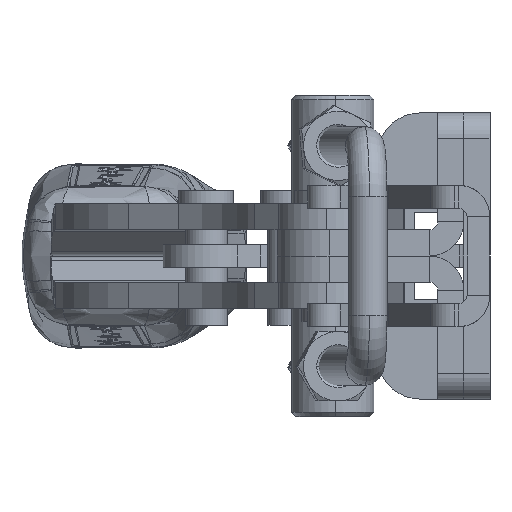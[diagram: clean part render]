
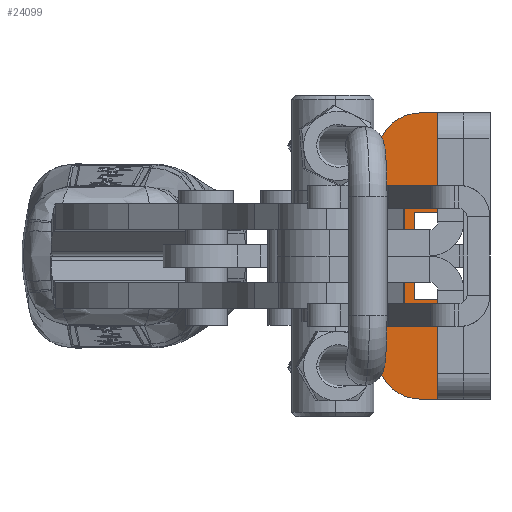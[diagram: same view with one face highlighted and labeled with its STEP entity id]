
A CAD part, left-side view. The second image highlights one B-rep face of the part: STEP entity #24099.
In plain terms, the highlighted planar face has unit normal (-1, 0, 0).
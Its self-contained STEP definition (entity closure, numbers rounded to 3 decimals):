
#34 = ORIENTED_EDGE ( 'NONE', *, *, #11541, .T. ) ;
#563 = CARTESIAN_POINT ( 'NONE',  ( 19.729, 1., 11.5 ) ) ;
#672 = LINE ( 'NONE', #6099, #31005 ) ;
#2159 = DIRECTION ( 'NONE',  ( -1., 0., 0. ) ) ;
#2314 = CARTESIAN_POINT ( 'NONE',  ( 19.729, 5., 16.5 ) ) ;
#3385 = VERTEX_POINT ( 'NONE', #28908 ) ;
#3499 = DIRECTION ( 'NONE',  ( 0., 0., -1. ) ) ;
#3938 = EDGE_CURVE ( 'NONE', #30170, #22484, #672, .T. ) ;
#4092 = CARTESIAN_POINT ( 'NONE',  ( 19.729, 10., -11.5 ) ) ;
#5543 = AXIS2_PLACEMENT_3D ( 'NONE', #13218, #33803, #16185 ) ;
#6099 = CARTESIAN_POINT ( 'NONE',  ( 19.729, 1., 11.5 ) ) ;
#6697 = ORIENTED_EDGE ( 'NONE', *, *, #27018, .T. ) ;
#6899 = ORIENTED_EDGE ( 'NONE', *, *, #34513, .F. ) ;
#6940 = VERTEX_POINT ( 'NONE', #19568 ) ;
#6960 = VECTOR ( 'NONE', #3499, 1000. ) ;
#7193 = AXIS2_PLACEMENT_3D ( 'NONE', #19799, #2159, #22755 ) ;
#7343 = DIRECTION ( 'NONE',  ( 0., 1., 0. ) ) ;
#8163 = EDGE_CURVE ( 'NONE', #3385, #27841, #15633, .T. ) ;
#8172 = EDGE_CURVE ( 'NONE', #20474, #30170, #16570, .T. ) ;
#8466 = LINE ( 'NONE', #27871, #31012 ) ;
#9668 = CARTESIAN_POINT ( 'NONE',  ( 19.729, 5., -16.5 ) ) ;
#9919 = CARTESIAN_POINT ( 'NONE',  ( 19.729, 1., -5. ) ) ;
#10055 = AXIS2_PLACEMENT_3D ( 'NONE', #14005, #16955, #37552 ) ;
#10256 = DIRECTION ( 'NONE',  ( 0., -1., 0. ) ) ;
#10457 = ORIENTED_EDGE ( 'NONE', *, *, #8172, .F. ) ;
#11541 = EDGE_CURVE ( 'NONE', #22523, #19484, #33006, .T. ) ;
#12339 = VECTOR ( 'NONE', #19998, 1000. ) ;
#12451 = CIRCLE ( 'NONE', #5543, 5. ) ;
#13143 = CARTESIAN_POINT ( 'NONE',  ( 19.729, 5.73, 5. ) ) ;
#13218 = CARTESIAN_POINT ( 'NONE',  ( 19.729, 5., -11.5 ) ) ;
#13323 = ORIENTED_EDGE ( 'NONE', *, *, #18257, .T. ) ;
#13385 = LINE ( 'NONE', #20495, #35008 ) ;
#13414 = ORIENTED_EDGE ( 'NONE', *, *, #3938, .F. ) ;
#14005 = CARTESIAN_POINT ( 'NONE',  ( 19.729, 5., 11.5 ) ) ;
#14074 = CARTESIAN_POINT ( 'NONE',  ( 19.729, 5.73, 5. ) ) ;
#15633 = LINE ( 'NONE', #13143, #23458 ) ;
#16185 = DIRECTION ( 'NONE',  ( 0., 0., 1. ) ) ;
#16570 = LINE ( 'NONE', #27924, #30336 ) ;
#16955 = DIRECTION ( 'NONE',  ( -1., 0., 0. ) ) ;
#17088 = VERTEX_POINT ( 'NONE', #4092 ) ;
#17502 = CARTESIAN_POINT ( 'NONE',  ( 19.729, 1., -16.5 ) ) ;
#18257 = EDGE_CURVE ( 'NONE', #19484, #6940, #31920, .T. ) ;
#18811 = DIRECTION ( 'NONE',  ( 0., -1., 0. ) ) ;
#19484 = VERTEX_POINT ( 'NONE', #2314 ) ;
#19568 = CARTESIAN_POINT ( 'NONE',  ( 19.729, 10., 11.5 ) ) ;
#19799 = CARTESIAN_POINT ( 'NONE',  ( 19.729, 5., 11.5 ) ) ;
#19998 = DIRECTION ( 'NONE',  ( 0., 0., -1. ) ) ;
#20474 = VERTEX_POINT ( 'NONE', #33627 ) ;
#20495 = CARTESIAN_POINT ( 'NONE',  ( 19.729, 10., 11.5 ) ) ;
#20722 = CARTESIAN_POINT ( 'NONE',  ( 19.729, 1., 16.5 ) ) ;
#20906 = EDGE_CURVE ( 'NONE', #22523, #3385, #22610, .T. ) ;
#21468 = EDGE_CURVE ( 'NONE', #17088, #31758, #12451, .T. ) ;
#22484 = VERTEX_POINT ( 'NONE', #17502 ) ;
#22523 = VERTEX_POINT ( 'NONE', #20722 ) ;
#22610 = LINE ( 'NONE', #563, #6960 ) ;
#22755 = DIRECTION ( 'NONE',  ( 0., 0., 1. ) ) ;
#23458 = VECTOR ( 'NONE', #7343, 1000. ) ;
#23501 = ORIENTED_EDGE ( 'NONE', *, *, #20906, .F. ) ;
#24099 = ADVANCED_FACE ( 'NONE', ( #30230 ), #34564, .T. ) ;
#25220 = VECTOR ( 'NONE', #35364, 1000. ) ;
#26009 = CARTESIAN_POINT ( 'NONE',  ( 19.729, 5.73, 5. ) ) ;
#26034 = ORIENTED_EDGE ( 'NONE', *, *, #8163, .F. ) ;
#26664 = DIRECTION ( 'NONE',  ( 0., 0., -1. ) ) ;
#27018 = EDGE_CURVE ( 'NONE', #31758, #22484, #8466, .T. ) ;
#27841 = VERTEX_POINT ( 'NONE', #26009 ) ;
#27871 = CARTESIAN_POINT ( 'NONE',  ( 19.729, 5., -16.5 ) ) ;
#27888 = ORIENTED_EDGE ( 'NONE', *, *, #29935, .T. ) ;
#27924 = CARTESIAN_POINT ( 'NONE',  ( 19.729, 5.73, -5. ) ) ;
#28300 = ORIENTED_EDGE ( 'NONE', *, *, #21468, .T. ) ;
#28908 = CARTESIAN_POINT ( 'NONE',  ( 19.729, 1., 5. ) ) ;
#29324 = DIRECTION ( 'NONE',  ( 0., 0., -1. ) ) ;
#29935 = EDGE_CURVE ( 'NONE', #6940, #17088, #13385, .T. ) ;
#30170 = VERTEX_POINT ( 'NONE', #9919 ) ;
#30230 = FACE_OUTER_BOUND ( 'NONE', #37921, .T. ) ;
#30336 = VECTOR ( 'NONE', #18811, 1000. ) ;
#31005 = VECTOR ( 'NONE', #26664, 1000. ) ;
#31012 = VECTOR ( 'NONE', #10256, 1000. ) ;
#31758 = VERTEX_POINT ( 'NONE', #9668 ) ;
#31920 = CIRCLE ( 'NONE', #7193, 5. ) ;
#32385 = CARTESIAN_POINT ( 'NONE',  ( 19.729, 5., 16.5 ) ) ;
#33006 = LINE ( 'NONE', #32385, #25220 ) ;
#33627 = CARTESIAN_POINT ( 'NONE',  ( 19.729, 5.73, -5. ) ) ;
#33803 = DIRECTION ( 'NONE',  ( -1., 0., 0. ) ) ;
#33976 = LINE ( 'NONE', #14074, #12339 ) ;
#34513 = EDGE_CURVE ( 'NONE', #27841, #20474, #33976, .T. ) ;
#34564 = PLANE ( 'NONE',  #10055 ) ;
#35008 = VECTOR ( 'NONE', #29324, 1000. ) ;
#35364 = DIRECTION ( 'NONE',  ( 0., 1., 0. ) ) ;
#37552 = DIRECTION ( 'NONE',  ( 0., 0., 1. ) ) ;
#37921 = EDGE_LOOP ( 'NONE', ( #23501, #34, #13323, #27888, #28300, #6697, #13414, #10457, #6899, #26034 ) ) ;
